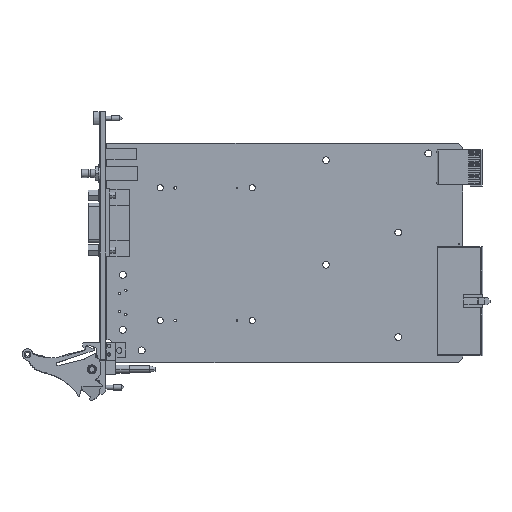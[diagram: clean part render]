
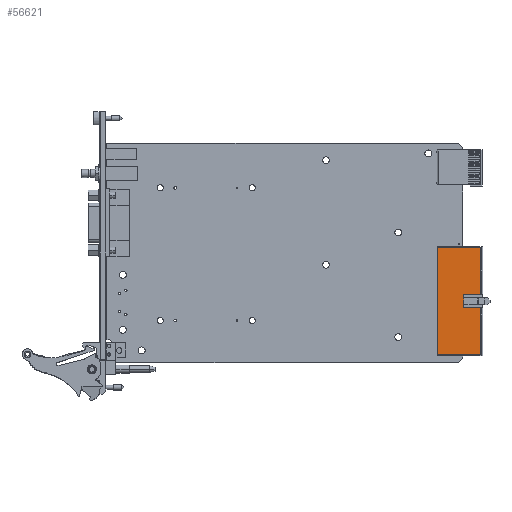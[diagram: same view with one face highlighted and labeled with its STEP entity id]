
A CAD part, top view. The second image highlights one B-rep face of the part: STEP entity #56621.
In plain terms, the highlighted planar face has unit normal (0, 0, 1).
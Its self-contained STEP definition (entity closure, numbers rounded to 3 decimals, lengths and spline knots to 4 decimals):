
#16638=DIRECTION('',(1.,0.,0.));
#16639=VECTOR('',#16638,0.7776);
#16640=CARTESIAN_POINT('',(5.8453,-3.7997,
0.3573));
#16641=LINE('',#16640,#16639);
#16650=DIRECTION('',(1.,0.,0.));
#16651=VECTOR('',#16650,0.7776);
#16652=CARTESIAN_POINT('',(5.8453,-1.8706,
0.3573));
#16653=LINE('',#16652,#16651);
#16974=DIRECTION('',(0.,1.,0.));
#16975=VECTOR('',#16974,0.8446);
#16976=CARTESIAN_POINT('',(6.6229,-3.7997,
0.3573));
#16977=LINE('',#16976,#16975);
#16978=DIRECTION('',(-1.,0.,0.));
#16979=VECTOR('',#16978,0.3031);
#16980=CARTESIAN_POINT('',(6.6229,-2.7151,
0.3573));
#16981=LINE('',#16980,#16979);
#16982=DIRECTION('',(0.,-1.,0.));
#16983=VECTOR('',#16982,0.06);
#16984=CARTESIAN_POINT('',(6.3197,-2.7151,
0.3573));
#16985=LINE('',#16984,#16983);
#16986=DIRECTION('',(0.,-1.,0.));
#16987=VECTOR('',#16986,0.06);
#16988=CARTESIAN_POINT('',(6.3197,-2.8951,
0.3573));
#16989=LINE('',#16988,#16987);
#16990=DIRECTION('',(-1.,0.,0.));
#16991=VECTOR('',#16990,0.3031);
#16992=CARTESIAN_POINT('',(6.6229,-2.9551,
0.3573));
#16993=LINE('',#16992,#16991);
#16994=DIRECTION('',(0.,1.,0.));
#16995=VECTOR('',#16994,1.9291);
#16996=CARTESIAN_POINT('',(5.8453,-3.7997,
0.3573));
#16997=LINE('',#16996,#16995);
#17042=DIRECTION('',(0.,1.,0.));
#17043=VECTOR('',#17042,0.12);
#17044=CARTESIAN_POINT('',(6.3197,-2.8951,
0.3573));
#17045=LINE('',#17044,#17043);
#17066=DIRECTION('',(0.,1.,0.));
#17067=VECTOR('',#17066,0.8446);
#17068=CARTESIAN_POINT('',(6.6229,-2.7151,
0.3573));
#17069=LINE('',#17068,#17067);
#26758=CARTESIAN_POINT('',(5.8453,-3.7997,
0.3573));
#26759=CARTESIAN_POINT('',(6.6229,-3.7997,
0.3573));
#26760=VERTEX_POINT('',#26758);
#26761=VERTEX_POINT('',#26759);
#26762=CARTESIAN_POINT('',(5.8453,-1.8706,
0.3573));
#26763=CARTESIAN_POINT('',(6.6229,-1.8706,
0.3573));
#26764=VERTEX_POINT('',#26762);
#26765=VERTEX_POINT('',#26763);
#26774=CARTESIAN_POINT('',(6.6229,-2.7151,
0.3573));
#26775=CARTESIAN_POINT('',(6.3197,-2.7151,
0.3573));
#26776=VERTEX_POINT('',#26774);
#26777=VERTEX_POINT('',#26775);
#26778=CARTESIAN_POINT('',(6.3197,-2.7751,
0.3573));
#26779=VERTEX_POINT('',#26778);
#26780=CARTESIAN_POINT('',(6.6229,-2.9551,
0.3573));
#26781=CARTESIAN_POINT('',(6.3197,-2.9551,
0.3573));
#26782=VERTEX_POINT('',#26780);
#26783=VERTEX_POINT('',#26781);
#26784=CARTESIAN_POINT('',(6.3197,-2.8951,
0.3573));
#26785=VERTEX_POINT('',#26784);
#56600=CARTESIAN_POINT('',(5.8453,-3.7997,
0.3573));
#56601=DIRECTION('',(0.,0.,1.));
#56602=DIRECTION('',(1.,0.,0.));
#56603=AXIS2_PLACEMENT_3D('',#56600,#56601,#56602);
#56604=PLANE('',#56603);
#56606=ORIENTED_EDGE('',*,*,#56605,.T.);
#56608=ORIENTED_EDGE('',*,*,#56607,.T.);
#56610=ORIENTED_EDGE('',*,*,#56609,.F.);
#56611=ORIENTED_EDGE('',*,*,#56539,.T.);
#56612=ORIENTED_EDGE('',*,*,#56556,.F.);
#56613=ORIENTED_EDGE('',*,*,#56595,.F.);
#56614=ORIENTED_EDGE('',*,*,#56092,.F.);
#56615=ORIENTED_EDGE('',*,*,#56110,.T.);
#56616=ORIENTED_EDGE('',*,*,#56128,.T.);
#56618=ORIENTED_EDGE('',*,*,#56617,.F.);
#56619=EDGE_LOOP('',(#56606,#56608,#56610,#56611,#56612,#56613,#56614,#56615,
#56616,#56618));
#56620=FACE_OUTER_BOUND('',#56619,.F.);
#56621=ADVANCED_FACE('',(#56620),#56604,.T.);
#56092=EDGE_CURVE('',#26760,#26761,#16641,.T.);
#56110=EDGE_CURVE('',#26760,#26764,#16997,.T.);
#56128=EDGE_CURVE('',#26764,#26765,#16653,.T.);
#56539=EDGE_CURVE('',#26785,#26783,#16989,.T.);
#56556=EDGE_CURVE('',#26782,#26783,#16993,.T.);
#56595=EDGE_CURVE('',#26761,#26782,#16977,.T.);
#56605=EDGE_CURVE('',#26776,#26777,#16981,.T.);
#56607=EDGE_CURVE('',#26777,#26779,#16985,.T.);
#56609=EDGE_CURVE('',#26785,#26779,#17045,.T.);
#56617=EDGE_CURVE('',#26776,#26765,#17069,.T.);
